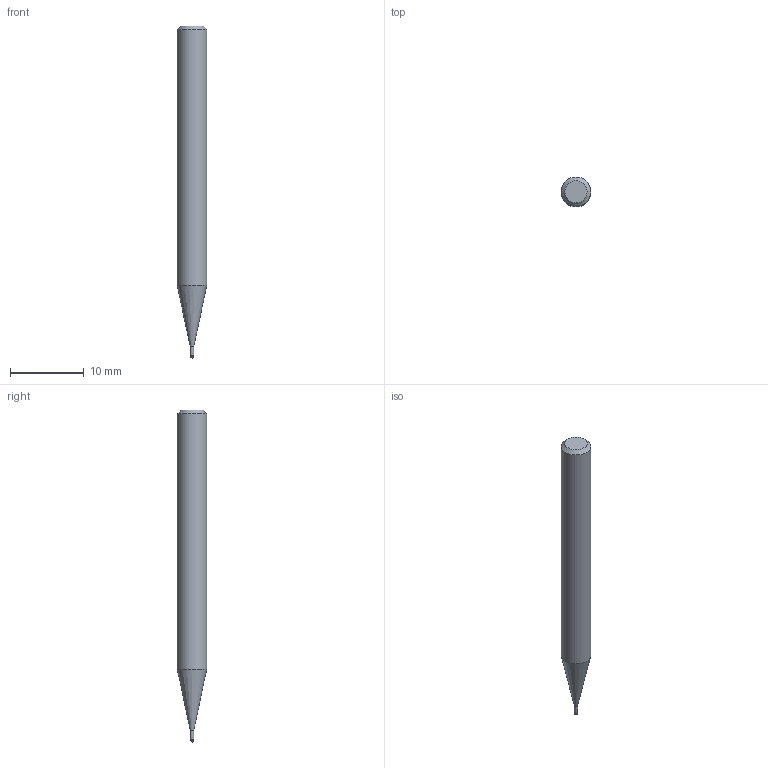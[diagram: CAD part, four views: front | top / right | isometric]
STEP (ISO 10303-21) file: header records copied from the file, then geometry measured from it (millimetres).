
FILE_DESCRIPTION((''),'2;1');
FILE_NAME('C:\Users\nsx150\AppData\Local\Temp\Mastercam 2021\3SYKECWX22\TEMP.step','2021-04-22T10:00:07',(''),(''),'STEP Write','Mastercam 2021 ... CNC Software, Inc.','');
FILE_SCHEMA(('AUTOMOTIVE_DESIGN'));
Length unit declared in the file: millimetre
Products named in the file (1): None
Bounding box: 4 x 4 x 45 mm (x, y, z)
Volume: 480.2 mm3; surface area: 512.8 mm2
Topology: 2 solids, 2 shells, 9 faces, 14 edges, 8 vertices
Faces by surface type: plane 3, cylinder 3, cone 2, sphere 1
Full cylindrical faces by diameter (mm): 0.46 x1, 0.5 x1, 4 x1
Entity records: 211 total; most frequent: DIRECTION 36, CARTESIAN_POINT 25, AXIS2_PLACEMENT_3D 18, ORIENTED_EDGE 14, EDGE_LOOP 14, STYLED_ITEM 12, ADVANCED_FACE 9, FACE_BOUND 8
